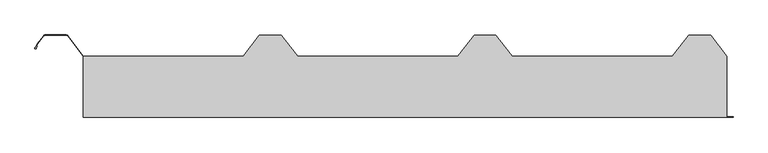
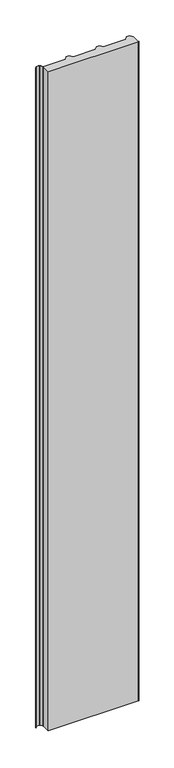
"""IFC4 building model written with IfcOpenShell, lengths in millimetres: plate geometry, Europanels_PolDeck MD T_Vt : PolDeck MD T 100/135."""

import ifcopenshell
import ifcopenshell.guid

model = None  # the IFC model being written
_history = None  # IfcOwnerHistory: only IFC2X3 demands one
_inside = {}  # id of a spatial element -> (the spatial element, [elements in it])
_under = {}  # id of a project, library or spatial element -> (it, [spatial elements below it])
_declared = {}  # id of a project -> (the project, [libraries it declares])
_typed = {}  # id of a type object -> (the type object, [elements of that type])
_made_of = {}  # id of a material, layer set ... -> (it, [elements and type objects made of it])


def new_model(schema):
    """Start an empty IFC model of exactly this schema.

    Asked for "IFC4X3", IfcOpenShell would pick the latest addendum, in which some entities
    have other attributes; the version numbers below select the first issue.
    IFC2X3 requires an IfcOwnerHistory on every rooted entity: one is made here for all.
    """
    global model, _history
    if schema == "IFC4X3":
        model = ifcopenshell.file(schema_version=(4, 3, 0, 0))
    else:
        model = ifcopenshell.file(schema=schema)
    _inside.clear()
    _under.clear()
    _declared.clear()
    _typed.clear()
    _made_of.clear()
    _history = None
    if model.schema == "IFC2X3":
        org = make("IfcOrganization", Name="unknown")
        user = make(
            "IfcPersonAndOrganization",
            ThePerson=make("IfcPerson", FamilyName="unknown"),
            TheOrganization=org,
        )
        app = make(
            "IfcApplication",
            ApplicationDeveloper=org,
            Version="unknown",
            ApplicationFullName="unknown",
            ApplicationIdentifier="unknown",
        )
        _history = make(
            "IfcOwnerHistory",
            OwningUser=user,
            OwningApplication=app,
            ChangeAction="ADDED",
            CreationDate=0,
        )
    return model


def make(cls, **values):
    """One entity of the class cls with the attributes given. An attribute that is None is left unset."""
    return model.create_entity(
        cls, **{name: value for name, value in values.items() if value is not None}
    )


def rooted(cls, **values):
    """An entity with a GlobalId (a new one), such as an element, a storey or a relation."""
    return make(cls, GlobalId=ifcopenshell.guid.new(), OwnerHistory=_history, **values)


def si_unit(unit_type, name, prefix=None):
    """IfcSIUnit, for example si_unit("LENGTHUNIT", "METRE", prefix="MILLI")."""
    return make("IfcSIUnit", UnitType=unit_type, Prefix=prefix, Name=name)


def assignment(units):
    """IfcUnitAssignment: the units of a project."""
    return None if units is None else make("IfcUnitAssignment", Units=units)


def point(xyz):
    """IfcCartesianPoint."""
    return None if xyz is None else make("IfcCartesianPoint", Coordinates=xyz)


def direction(xyz):
    """IfcDirection."""
    return None if xyz is None else make("IfcDirection", DirectionRatios=xyz)


def frame(location, z_axis=None, x_axis=None):
    """IfcAxis2Placement3D, a coordinate frame: its origin and axes. An axis left out is left unset."""
    return make(
        "IfcAxis2Placement3D",
        Location=point(location),
        Axis=direction(z_axis),
        RefDirection=direction(x_axis),
    )


def frame_2d(location, x_axis=None):
    """IfcAxis2Placement2D, a coordinate frame in the plane: its origin and x axis."""
    return make(
        "IfcAxis2Placement2D", Location=point(location), RefDirection=direction(x_axis)
    )


def origin():
    """The frame at (0, 0, 0) with its axes left unset."""
    return frame((0.0, 0.0, 0.0))


def origin_with_axes():
    """The frame at (0, 0, 0) with the z axis (0, 0, 1) and the x axis (1, 0, 0) written out."""
    return frame((0.0, 0.0, 0.0), z_axis=(0.0, 0.0, 1.0), x_axis=(1.0, 0.0, 0.0))


def place(relative_to, where):
    """IfcLocalPlacement: puts the frame where relative to a parent placement (None: the world)."""
    return make(
        "IfcLocalPlacement", PlacementRelTo=relative_to, RelativePlacement=where
    )


def context(
    kind, dimensions, precision=None, world=None, true_north=None, identifier=None
):
    """IfcGeometricRepresentationContext, for example the 3D "Model" context."""
    return make(
        "IfcGeometricRepresentationContext",
        ContextIdentifier=identifier,
        ContextType=kind,
        CoordinateSpaceDimension=dimensions,
        Precision=precision,
        WorldCoordinateSystem=world,
        TrueNorth=true_north,
    )


def project(units=None, contexts=None):
    """IfcProject with its units and contexts."""
    return rooted(
        "IfcProject",
        Name="project",
        RepresentationContexts=contexts,
        UnitsInContext=assignment(units),
    )


def spatial(cls, under=None, at=None, **own):
    """A site, building, storey or space (cls), placed at a placement, below another one or the project."""
    s = rooted(cls, ObjectPlacement=at, **own)
    if under is not None:
        _under.setdefault(under.id(), (under, []))[1].append(s)
    return s


def polyline(points):
    """IfcPolyline through the points."""
    return make("IfcPolyline", Points=[point(p) for p in points])


def circle_curve(where, radius):
    """IfcCircle in the frame where."""
    return make("IfcCircle", Position=where, Radius=radius)


def trimmed(basis, trim1, trim2, sense, master):
    """IfcTrimmedCurve: the piece of a basis curve between two trims."""
    return make(
        "IfcTrimmedCurve",
        BasisCurve=basis,
        Trim1=trim1,
        Trim2=trim2,
        SenseAgreement=sense,
        MasterRepresentation=master,
    )


def segment(curve, same_sense, transition):
    """IfcCompositeCurveSegment."""
    return make(
        "IfcCompositeCurveSegment",
        Transition=transition,
        SameSense=same_sense,
        ParentCurve=curve,
    )


def composite_curve(segments, self_intersect=None):
    """IfcCompositeCurve: segments joined end to end."""
    return make("IfcCompositeCurve", Segments=segments, SelfIntersect=self_intersect)


def outline(outer, holes=None, kind="AREA"):
    """IfcArbitraryClosedProfileDef: a profile drawn as a closed curve; with holes, ...WithVoids."""
    if holes is None:
        return make("IfcArbitraryClosedProfileDef", ProfileType=kind, OuterCurve=outer)
    return make(
        "IfcArbitraryProfileDefWithVoids",
        ProfileType=kind,
        OuterCurve=outer,
        InnerCurves=holes,
    )


def extrude(swept, where, along, depth):
    """IfcExtrudedAreaSolid: the profile swept, set in the frame where, extruded along a direction by depth."""
    return make(
        "IfcExtrudedAreaSolid",
        SweptArea=swept,
        Position=where,
        ExtrudedDirection=direction(along),
        Depth=depth,
    )


def faces_of(points, faces, orient=None, outer=None):
    """IfcFace entities. A face is a list of loops; a loop is a list of indices into points, from 0.

    orient and outer hold one flag for each loop. By default every Orientation is true, the
    first loop of a face is its IfcFaceOuterBound and the others are IfcFaceBound.
    """
    made = []
    for i, loops in enumerate(faces):
        bounds = []
        for j, loop in enumerate(loops):
            is_outer = j == 0 if outer is None else outer[i][j]
            bounds.append(
                make(
                    "IfcFaceOuterBound" if is_outer else "IfcFaceBound",
                    Bound=make("IfcPolyLoop", Polygon=[points[k] for k in loop]),
                    Orientation=True if orient is None else orient[i][j],
                )
            )
        made.append(make("IfcFace", Bounds=bounds))
    return made


def faceted_brep(points, faces, orient=None, outer=None, voids=None):
    """IfcFacetedBrep: a solid bounded by flat faces; with voids (closed shells), ...WithVoids."""
    shared = [point(p) for p in points]
    hull = make("IfcClosedShell", CfsFaces=faces_of(shared, faces, orient, outer))
    if voids is None:
        return make("IfcFacetedBrep", Outer=hull)
    return make(
        "IfcFacetedBrepWithVoids",
        Outer=hull,
        Voids=[
            make(cls, CfsFaces=faces_of(shared, fs, o, b)) for cls, fs, o, b in voids
        ],
    )


def shape(context_of_items, identifier, shape_type, items):
    """IfcShapeRepresentation: the items that make up one representation, for example the "Body"."""
    return make(
        "IfcShapeRepresentation",
        ContextOfItems=context_of_items,
        RepresentationIdentifier=identifier,
        RepresentationType=shape_type,
        Items=items,
    )


def source(mapping_origin, context_of_items, identifier, shape_type, items):
    """IfcRepresentationMap: a shape defined once, which mapped items show again and again."""
    return make(
        "IfcRepresentationMap",
        MappingOrigin=mapping_origin,
        MappedRepresentation=shape(context_of_items, identifier, shape_type, items),
    )


def transform(
    local_origin,
    x_axis=None,
    y_axis=None,
    z_axis=None,
    scale=None,
    scale2=None,
    scale3=None,
    uniform=True,
):
    """IfcCartesianTransformationOperator3D, or its non-uniform kind. x_axis, y_axis, z_axis: its Axis1, 2, 3."""
    if uniform:
        return make(
            "IfcCartesianTransformationOperator3D",
            Axis1=direction(x_axis),
            Axis2=direction(y_axis),
            LocalOrigin=point(local_origin),
            Scale=scale,
            Axis3=direction(z_axis),
        )
    return make(
        "IfcCartesianTransformationOperator3DnonUniform",
        Axis1=direction(x_axis),
        Axis2=direction(y_axis),
        LocalOrigin=point(local_origin),
        Scale=scale,
        Axis3=direction(z_axis),
        Scale2=scale2,
        Scale3=scale3,
    )


def mapped(mapping_source, mapping_target):
    """IfcMappedItem: shows the shape of a source again, moved by a transform."""
    return make(
        "IfcMappedItem", MappingSource=mapping_source, MappingTarget=mapping_target
    )


def made_of(thing, what):
    """Note that an element or type object is made of a material, layer set ...; save() writes the relation."""
    if what is not None:
        _made_of.setdefault(what.id(), (what, []))[1].append(thing)
    return thing


def element(
    cls,
    number,
    at=None,
    inside=None,
    cuts=None,
    type_object=None,
    material=None,
    context=None,
    identifier="Body",
    shape_type=None,
    held_by="IfcProductDefinitionShape",
    body=None,
    shapes=None,
    **own,
):
    """One element of the class cls, such as IfcWall. Its Tag is "e" and its number.

    at: its placement. inside: the storey or other place that contains it. cuts: it is an
    opening in that element (IfcRelVoidsElement). A single representation is given by context,
    identifier, shape_type and body (its items); several are given by shapes. held_by: the class
    of the entity that holds the representations. save() writes the other relations.
    """
    e = rooted(cls, Tag="e%d" % number, ObjectPlacement=at, **own)
    if body is not None:
        shapes = [shape(context, identifier, shape_type, body)]
    if shapes is not None:
        e.Representation = make(held_by, Representations=shapes)
    if inside is not None:
        _inside.setdefault(inside.id(), (inside, []))[1].append(e)
    if cuts is not None:
        rooted(
            "IfcRelVoidsElement", RelatingBuildingElement=cuts, RelatedOpeningElement=e
        )
    if type_object is not None:
        _typed.setdefault(type_object.id(), (type_object, []))[1].append(e)
    return made_of(e, material)


def aggregate(whole, parts):
    """IfcRelAggregates: a whole, such as a stair, and the parts it consists of."""
    return rooted("IfcRelAggregates", RelatingObject=whole, RelatedObjects=parts)


def save(model, path):
    """Write the relations noted so far, then the file.

    IfcRelAggregates (storeys below a building ...), IfcRelContainedInSpatialStructure (elements
    in a storey), IfcRelDefinesByType, IfcRelAssociatesMaterial and IfcRelDeclares: one each for
    every whole, place, type object, material and project.
    """
    for whole, parts in _under.values():
        aggregate(whole, parts)
    for where, things in _inside.values():
        rooted(
            "IfcRelContainedInSpatialStructure",
            RelatedElements=things,
            RelatingStructure=where,
        )
    for kind, things in _typed.values():
        rooted("IfcRelDefinesByType", RelatedObjects=things, RelatingType=kind)
    for what, things in _made_of.values():
        rooted("IfcRelAssociatesMaterial", RelatedObjects=things, RelatingMaterial=what)
    for by, libraries in _declared.values():
        rooted("IfcRelDeclares", RelatingContext=by, RelatedDefinitions=libraries)
    model.write(path)


def plate_fd181678(model_context):
    return source(origin(), model_context, "Body", "SolidModel", [
        faceted_brep([(-485.0371719, -50.0, 8180.0), (574.9583523, -50.0, 8180.0), (574.9583523, 50.0, 8180.0), (547.9918013, 85.0, 8180.0), (512.0081987, 85.0, 8180.0), (485.0416477, 50.0, 8180.0), (221.625019, 50.0, 8180.0), (194.658468, 85.0, 8180.0), (158.6748653, 85.0, 8180.0), (131.7083144, 50.0, 8180.0), (-131.7083144, 50.0, 8180.0), (-158.6748653, 85.0, 8180.0), (-194.658468, 85.0, 8180.0), (-221.625019, 50.0, 8180.0), (-485.037171, 50.0, 8180.0), (574.9583523, -50.0, 0.0), (-485.0371719, -50.0, 0.0), (-485.037171, 49.9941896, 0.0), (-221.625019, 50.0, 0.0), (-194.658468, 85.0, 0.0), (-158.6748653, 85.0, 0.0), (-131.7083144, 50.0, 0.0), (131.7083144, 50.0, 0.0), (158.6748653, 85.0, 0.0), (194.658468, 85.0, 0.0), (221.625019, 50.0, 0.0), (485.0416477, 50.0, 0.0), (512.0081987, 85.0, 0.0), (547.9918013, 85.0, 0.0), (574.9583523, 50.0, 0.0)], [[[0, 1, 2, 3, 4, 5, 6, 7, 8, 9, 10, 11, 12, 13, 14]], [[15, 16, 17, 18, 19, 20, 21, 22, 23, 24, 25, 26, 27, 28, 29]], [[1, 0, 16, 15]], [[4, 3, 28, 27]], [[8, 7, 24, 23]], [[12, 11, 20, 19]], [[1, 15, 29, 2]], [[16, 0, 14, 17]], [[13, 18, 17, 14]], [[18, 13, 12, 19]], [[10, 21, 20, 11]], [[21, 10, 9, 22]], [[22, 9, 8, 23]], [[6, 25, 24, 7]], [[25, 6, 5, 26]], [[26, 5, 4, 27]], [[3, 2, 29, 28]]]),
        extrude(outline(polyline([(585.0526435, -50.0), (574.9583523, -50.0), (574.9583523, -49.1691383), (585.0526435, -49.1691383), (585.0526435, -50.0)])), origin_with_axes(), (0.0, 0.0, 1.0), 8180.0),
        extrude(outline(composite_curve([segment(polyline([(-484.3748924, 50.0), (-482.9885349, 50.0), (-482.9885354, 49.1820094), (-485.0025138, 49.1820094), (-485.0025138, 50.0), (-510.6186247, 83.7629129)]), True, "CONTINUOUS"), segment(trimmed(circle_curve(frame_2d((-513.1458708, 81.8)), 3.2), [point((-510.6186247, 83.7629129))], [point((-513.1458708, 85.0))], True, "CARTESIAN"), True, "CONTINUOUS"), segment(polyline([(-513.1458708, 85.0), (-547.1023684, 85.0)]), True, "CONTINUOUS"), segment(trimmed(circle_curve(frame_2d((-547.1023684, 81.7999402)), 3.2000598), [point((-547.1023684, 85.0))], [point((-549.6350052, 83.7559907))], True, "CARTESIAN"), True, "CONTINUOUS"), segment(polyline([(-549.6350052, 83.7559907), (-559.8293058, 70.5697064), (-561.8994818, 67.1140575), (-560.4893339, 66.4368734), (-562.0771366, 63.1304808)]), True, "CONTINUOUS"), segment(trimmed(circle_curve(frame_2d((-563.1588706, 63.6499533)), 1.2), [point((-562.0771366, 63.1304808))], [point((-564.1970819, 64.2517151))], False, "CARTESIAN"), True, "CONTINUOUS"), segment(polyline([(-564.1970819, 64.2517151), (-560.2430004, 70.8520798), (-550.0306469, 84.0617156)]), True, "CONTINUOUS"), segment(trimmed(circle_curve(frame_2d((-547.1023684, 81.7999402)), 3.7000598), [point((-550.0306469, 84.0617156))], [point((-547.1023684, 85.5))], False, "CARTESIAN"), True, "CONTINUOUS"), segment(polyline([(-547.1023684, 85.5), (-513.1458708, 85.5)]), True, "CONTINUOUS"), segment(trimmed(circle_curve(frame_2d((-513.1458708, 81.8)), 3.7), [point((-513.1458708, 85.5))], [point((-510.2219441, 84.0673008))], False, "CARTESIAN"), True, "CONTINUOUS"), segment(polyline([(-510.2219441, 84.0673008), (-484.3748924, 50.0)]), True, "CONTINUOUS")], self_intersect=False)), origin_with_axes(), (0.0, 0.0, 1.0), 8180.0),
    ])


if __name__ == "__main__":
    model = new_model("IFC4")
    model_context = context("Model", 3, world=origin())
    ifc_project = project(units=[si_unit("LENGTHUNIT", "METRE", prefix="MILLI")], contexts=[model_context])
    site = spatial("IfcSite", under=ifc_project)
    building = spatial("IfcBuilding", under=site)
    placement = place(None, origin())
    plate_shape = plate_fd181678(model_context)
    element("IfcPlate", 1, ObjectType="Europanels_PolDeck MD T_Vt : PolDeck MD T 100/135", at=placement, inside=building, context=model_context, shape_type="MappedRepresentation", body=[
        mapped(plate_shape, transform((0.0, 0.0, 0.0), x_axis=(1.0, 0.0, 0.0), y_axis=(0.0, 1.0, 0.0), z_axis=(0.0, 0.0, 1.0))),
    ])
    save(model, "model.ifc")
